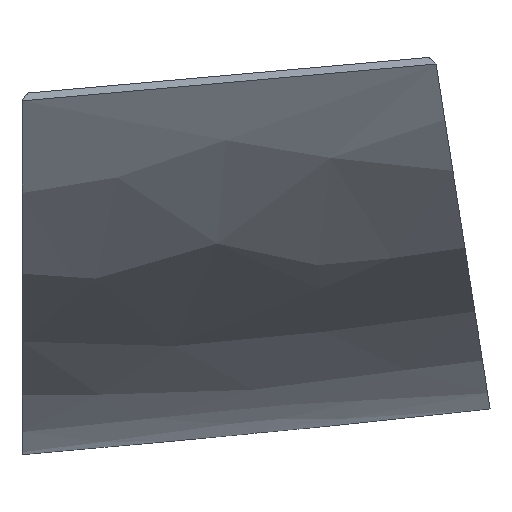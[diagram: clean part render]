
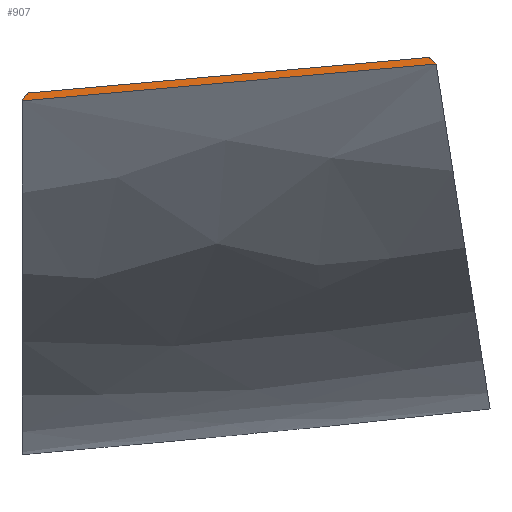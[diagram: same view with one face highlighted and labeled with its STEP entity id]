
A CAD part, top view. The second image highlights one B-rep face of the part: STEP entity #907.
In plain terms, the highlighted free-form (B-spline) face has degree [1, 3] with [2, 4] control points.
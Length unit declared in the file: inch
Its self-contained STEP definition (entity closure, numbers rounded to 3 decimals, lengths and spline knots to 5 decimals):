
#48 = ORIENTED_EDGE ( 'NONE', *, *, #2540, .T. ) ;
#137 = CARTESIAN_POINT ( 'NONE',  ( 14.39921, -137.15774, 31.54142 ) ) ;
#287 = ORIENTED_EDGE ( 'NONE', *, *, #453, .T. ) ;
#296 = CARTESIAN_POINT ( 'NONE',  ( 7.25327, -137.79365, 31.66737 ) ) ;
#299 = CARTESIAN_POINT ( 'NONE',  ( 0.37258, -138.02653, 31.14014 ) ) ;
#324 = B_SPLINE_CURVE_WITH_KNOTS ( 'NONE', 3,
 ( #2194, #636, #296, #1049 ),
 .UNSPECIFIED., .F., .F.,
 ( 4, 4 ),
 ( 0., 1. ),
 .UNSPECIFIED. ) ;
#334 = CARTESIAN_POINT ( 'NONE',  ( 0.10733, -138.42955, 31.79332 ) ) ;
#336 = EDGE_CURVE ( 'NONE', #2542, #1782, #324, .T. ) ;
#390 = CARTESIAN_POINT ( 'NONE',  ( 14.35448, -136.78346, 30.89303 ) ) ;
#439 = CARTESIAN_POINT ( 'NONE',  ( 21.4269, -136.40646, 31.20104 ) ) ;
#453 = EDGE_CURVE ( 'NONE', #2542, #1361, #1604, .T. ) ;
#544 = CARTESIAN_POINT ( 'NONE',  ( 21.19039, -136.17571, 30.77221 ) ) ;
#559 = CARTESIAN_POINT ( 'NONE',  ( 14.25112, -136.79265, 30.89485 ) ) ;
#573 = FACE_OUTER_BOUND ( 'NONE', #1754, .T. ) ;
#636 = CARTESIAN_POINT ( 'NONE',  ( 14.39921, -137.15774, 31.54142 ) ) ;
#845 = EDGE_CURVE ( 'NONE', #1361, #1395, #2499, .T. ) ;
#855 = CARTESIAN_POINT ( 'NONE',  ( 21.54516, -136.52183, 31.41547 ) ) ;
#907 = ADVANCED_FACE ( 'NONE', ( #573 ), #1628, .T. ) ;
#935 = CARTESIAN_POINT ( 'NONE',  ( 0.10733, -138.42955, 31.79332 ) ) ;
#1049 = CARTESIAN_POINT ( 'NONE',  ( 0.10733, -138.42955, 31.79332 ) ) ;
#1065 = CARTESIAN_POINT ( 'NONE',  ( 21.30865, -136.29109, 30.98662 ) ) ;
#1071 = ORIENTED_EDGE ( 'NONE', *, *, #845, .T. ) ;
#1109 = CARTESIAN_POINT ( 'NONE',  ( 0.10733, -138.42955, 31.79332 ) ) ;
#1121 = CARTESIAN_POINT ( 'NONE',  ( 7.20849, -137.41878, 31.01932 ) ) ;
#1221 = CARTESIAN_POINT ( 'NONE',  ( 21.19039, -136.17571, 30.77221 ) ) ;
#1339 = CARTESIAN_POINT ( 'NONE',  ( 7.31185, -137.40959, 31.0175 ) ) ;
#1361 = VERTEX_POINT ( 'NONE', #2048 ) ;
#1395 = VERTEX_POINT ( 'NONE', #299 ) ;
#1604 = B_SPLINE_CURVE_WITH_KNOTS ( 'NONE', 3,
 ( #2218, #439, #1065, #1221 ),
 .UNSPECIFIED., .F., .F.,
 ( 4, 4 ),
 ( 0., 1. ),
 .UNSPECIFIED. ) ;
#1606 = ORIENTED_EDGE ( 'NONE', *, *, #336, .F. ) ;
#1628 = B_SPLINE_SURFACE_WITH_KNOTS ( 'NONE', 1, 3, ( 
 ( #2138, #137, #1906, #334 ),
 ( #1732, #390, #1121, #1892 ) ),
 .UNSPECIFIED., .F., .F., .F.,
 ( 2, 2 ),
 ( 4, 4 ),
 ( 0., 1. ),
 ( -0.27338, 0.27338 ),
 .UNSPECIFIED. ) ;
#1732 = CARTESIAN_POINT ( 'NONE',  ( 21.50047, -136.14814, 30.76673 ) ) ;
#1754 = EDGE_LOOP ( 'NONE', ( #1071, #48, #1606, #287 ) ) ;
#1782 = VERTEX_POINT ( 'NONE', #935 ) ;
#1855 = CARTESIAN_POINT ( 'NONE',  ( 0.28416, -138.16086, 31.35787 ) ) ;
#1868 = CARTESIAN_POINT ( 'NONE',  ( 0.19574, -138.2952, 31.5756 ) ) ;
#1892 = CARTESIAN_POINT ( 'NONE',  ( 0.0625, -138.0541, 31.14562 ) ) ;
#1906 = CARTESIAN_POINT ( 'NONE',  ( 7.25327, -137.79365, 31.66737 ) ) ;
#2026 = B_SPLINE_CURVE_WITH_KNOTS ( 'NONE', 3,
 ( #2047, #1855, #1868, #1109 ),
 .UNSPECIFIED., .F., .F.,
 ( 4, 4 ),
 ( 0., 1. ),
 .UNSPECIFIED. ) ;
#2047 = CARTESIAN_POINT ( 'NONE',  ( 0.37258, -138.02653, 31.14014 ) ) ;
#2048 = CARTESIAN_POINT ( 'NONE',  ( 21.19039, -136.17571, 30.77221 ) ) ;
#2101 = CARTESIAN_POINT ( 'NONE',  ( 0.37258, -138.02653, 31.14014 ) ) ;
#2138 = CARTESIAN_POINT ( 'NONE',  ( 21.54516, -136.52183, 31.41547 ) ) ;
#2194 = CARTESIAN_POINT ( 'NONE',  ( 21.54516, -136.52183, 31.41547 ) ) ;
#2218 = CARTESIAN_POINT ( 'NONE',  ( 21.54516, -136.52183, 31.41547 ) ) ;
#2499 = B_SPLINE_CURVE_WITH_KNOTS ( 'NONE', 3,
 ( #544, #559, #1339, #2101 ),
 .UNSPECIFIED., .F., .F.,
 ( 4, 4 ),
 ( 0.01446, 0.98554 ),
 .UNSPECIFIED. ) ;
#2540 = EDGE_CURVE ( 'NONE', #1395, #1782, #2026, .T. ) ;
#2542 = VERTEX_POINT ( 'NONE', #855 ) ;
